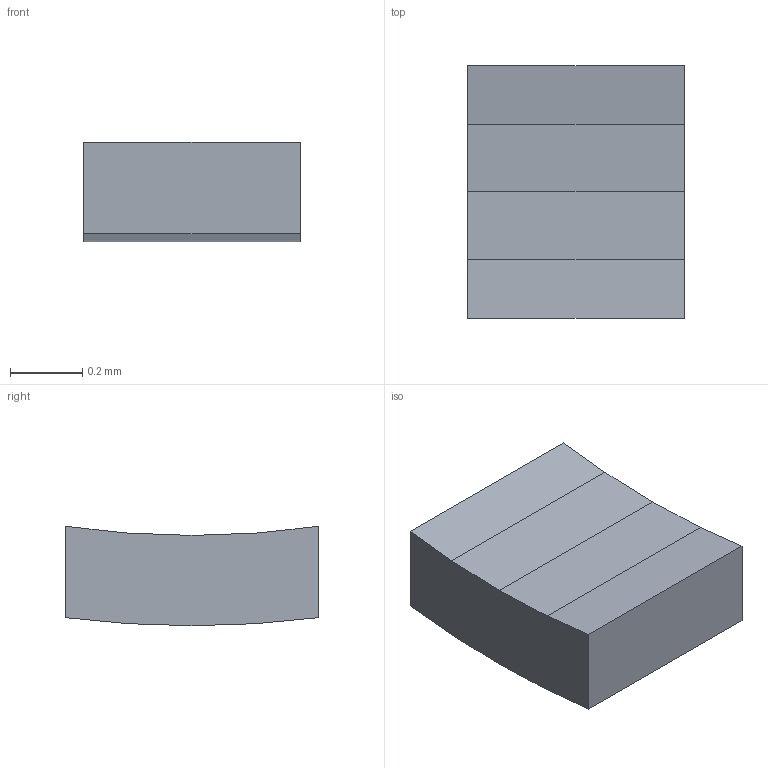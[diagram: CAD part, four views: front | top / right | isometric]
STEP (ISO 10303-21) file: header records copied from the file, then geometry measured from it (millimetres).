
FILE_DESCRIPTION(/* description */ (''),/* implementation_level */ '2;1');
FILE_NAME(/* name */ 'C27_R2_LED_Saddle_Pad_2.step',/* time_stamp */ '2026-09-10T17:49:23-07:00',/* author */ (''),/* organization */ (''),/* preprocessor_version */ 'ST-DEVELOPER v20.1',/* originating_system */ 'Autodesk Translation Framework v15.8.0.0',/* authorisation */ '');
FILE_SCHEMA (('AUTOMOTIVE_DESIGN { 1 0 10303 214 3 1 1 }'));
Length unit declared in the file: millimetre
Products named in the file (1): 2026-09-10-17-49-23-735
Bounding box: 0.6 x 0.7 x 0.28 mm (x, y, z)
Volume: 0.1 mm3; surface area: 1.5 mm2
Topology: 1 solids, 1 shells, 9 faces, 21 edges, 14 vertices
Faces by surface type: plane 8, cylinder 1
Entity records: 290 total; most frequent: CARTESIAN_POINT 45, DIRECTION 43, ORIENTED_EDGE 42, EDGE_CURVE 21, LINE 19, VECTOR 19, VERTEX_POINT 14, AXIS2_PLACEMENT_3D 12
